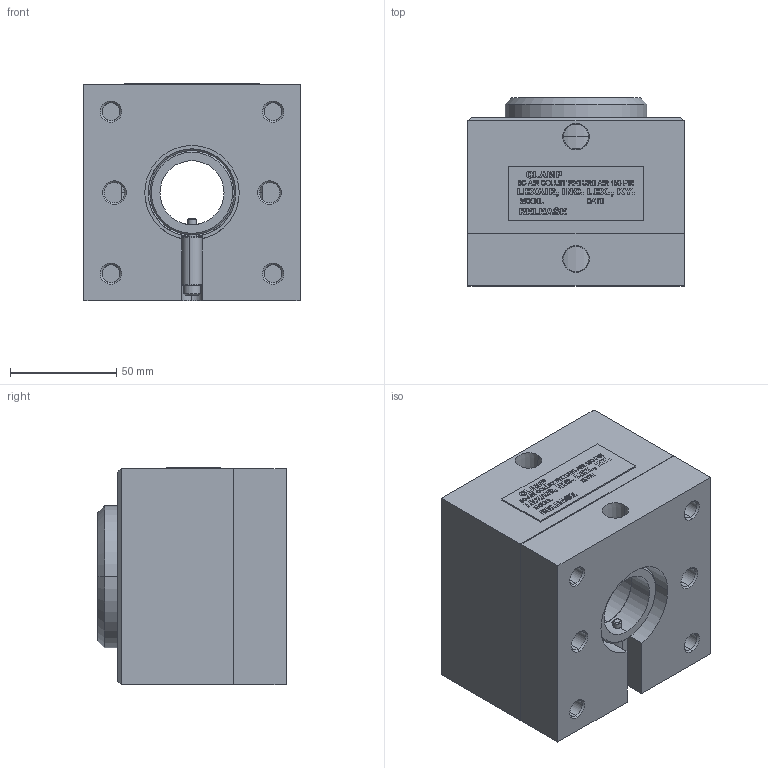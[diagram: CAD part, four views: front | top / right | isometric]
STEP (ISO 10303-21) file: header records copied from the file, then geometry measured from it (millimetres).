
FILE_DESCRIPTION (( 'STEP AP214' ), '1' );
FILE_NAME ('65101.STEP', '2017-01-05T18:47:20', ( '' ), ( '' ), 'SwSTEP 2.0', 'SolidWorks 2016', '' );
FILE_SCHEMA (( 'AUTOMOTIVE_DESIGN' ));
Length unit declared in the file: inch
Products named in the file (1): 65101
Bounding box: 101.6 x 88.61 x 102.29 mm (x, y, z)
Surface area: 81852.3 mm2 (no closed solid volume)
Topology: 0 solids, 14 shells, 305 faces, 1781 edges, 1469 vertices
Faces by surface type: plane 174, cylinder 53, cone 48, bspline 24, torus 6
Entity records: 26021 total; most frequent: CARTESIAN_POINT 9335, ORIENTED_EDGE 2294, DIRECTION 2191, EDGE_CURVE 1781, VERTEX_POINT 1469, VECTOR 1259, LINE 1259, AXIS2_PLACEMENT_3D 466
